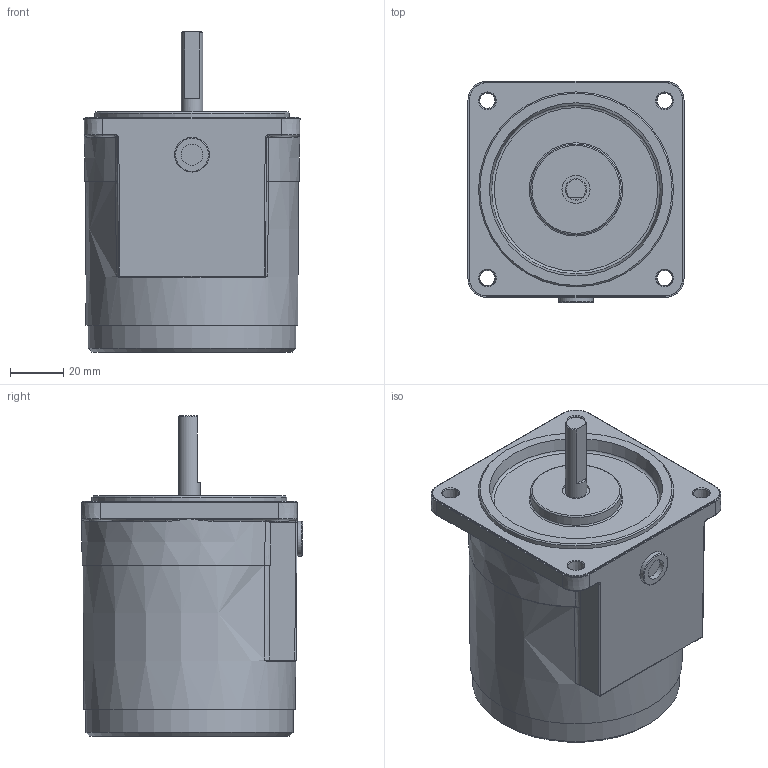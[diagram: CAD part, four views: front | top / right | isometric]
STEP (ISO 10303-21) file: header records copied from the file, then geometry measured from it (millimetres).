
FILE_DESCRIPTION (( 'STEP AP214' ), '1' );
FILE_NAME ('8TDD､ｱ-10.STEP', '2025-01-13T08:10:33', ( '' ), ( '' ), 'SwSTEP 2.0', 'SolidWorks 2024', '' );
FILE_SCHEMA (( 'AUTOMOTIVE_DESIGN' ));
Length unit declared in the file: millimetre
Products named in the file (1): 8TDDㅁ-10
Bounding box: 81 x 82.94 x 120 mm (x, y, z)
Volume: 454360.8 mm3; surface area: 39168.1 mm2
Topology: 1 solids, 1 shells, 170 faces, 362 edges, 213 vertices
Faces by surface type: plane 48, cone 39, torus 38, cylinder 25, bspline 18, sphere 2
Full cylindrical faces by diameter (mm): 8 x2, 10.5 x1, 13 x1, 34 x1, 73.1 x1
Entity records: 4582 total; most frequent: CARTESIAN_POINT 1284, DIRECTION 709, ORIENTED_EDGE 562, AXIS2_PLACEMENT_3D 320, EDGE_CURVE 281, EDGE_LOOP 266, FACE_OUTER_BOUND 202, VERTEX_POINT 201
